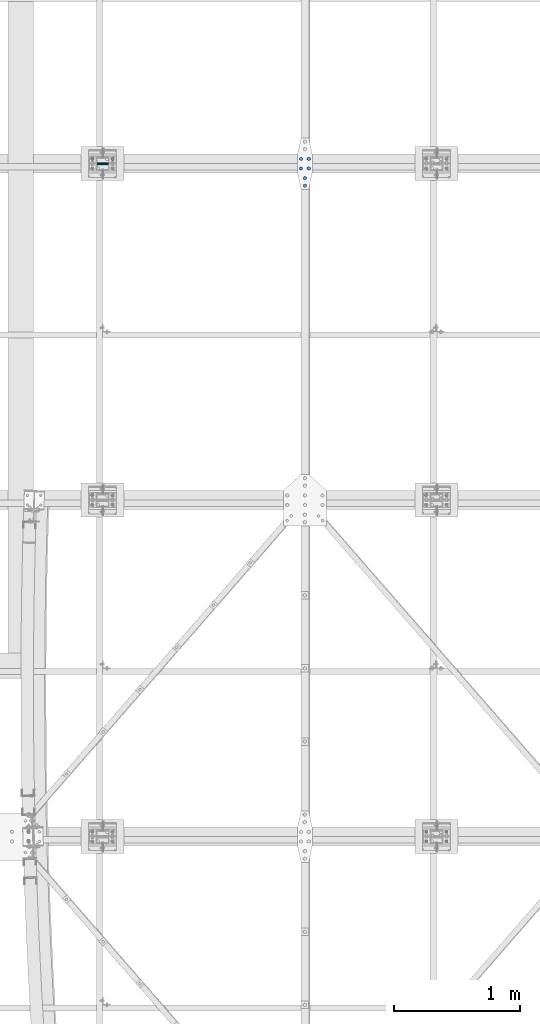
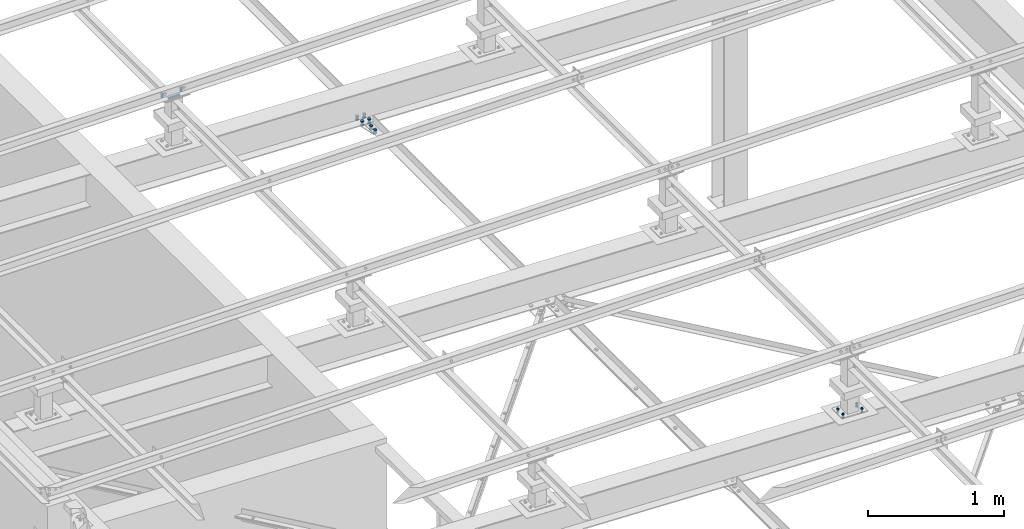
# One storey, part 172 of 3134: 5 mechanical fasteners, 5 elements without a shape of their own.
"""IFC2X3 building model written with IfcOpenShell, lengths in millimetres."""

from ifc_helpers import new_model, si_unit, frame, origin_with_axes, place, context, subcontext, project, spatial, faceted_brep, source, transform, mapped, material, type_object, element, aggregate, save


model = new_model("IFC2X3")

# Units and contexts
model_context = context("Model", 3, precision=1e-05, world=origin_with_axes())
body_context = subcontext(model_context, "Body", "Model", "MODEL_VIEW")
ifc_project = project(units=[si_unit("LENGTHUNIT", "METRE", prefix="MILLI"), si_unit("AREAUNIT", "SQUARE_METRE"), si_unit("VOLUMEUNIT", "CUBIC_METRE"), si_unit("MASSUNIT", "GRAM", prefix="KILO"), si_unit("TIMEUNIT", "SECOND"), si_unit("PLANEANGLEUNIT", "RADIAN"), si_unit("SOLIDANGLEUNIT", "STERADIAN"), si_unit("THERMODYNAMICTEMPERATUREUNIT", "DEGREE_CELSIUS"), si_unit("LUMINOUSINTENSITYUNIT", "LUMEN")], contexts=[model_context])

# Site, building, storey
site_placement = place(None, origin_with_axes())
site = spatial("IfcSite", under=ifc_project, at=site_placement, CompositionType="ELEMENT")
building_placement = place(site_placement, origin_with_axes())
building = spatial("IfcBuilding", under=site, at=building_placement, Name="Undefined", CompositionType="ELEMENT")
storey_placement = place(building_placement, origin_with_axes())
storey = spatial("IfcBuildingStorey", under=building, at=storey_placement, Name="Undefined", CompositionType="ELEMENT", Elevation=0.0)

# Assembly, mechanical fastener
assembly_1_placement = place(storey_placement, origin_with_axes())
assembly_1 = element("IfcElementAssembly", 1, at=assembly_1_placement, inside=storey, AssemblyPlace="NOTDEFINED", PredefinedType="RIGID_FRAME")
ifc_material = material(Name="8.8")
mechanical_fastener_type = type_object("IfcMechanicalFastenerType", Name="Bolt assembly")
shared_shape_1 = source(origin_with_axes(), body_context, "Body", "Brep", [
    faceted_brep([(10.9696551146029, -14.0, 0.0), (5.48482755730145, -14.0, 9.5), (-5.48482755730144, -14.0, 9.5), (-10.9696551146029, -14.0, 1.34339530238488e-15), (-5.48482755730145, -14.0, -9.5), (5.48482755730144, -14.0, -9.50000000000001), (5.48482755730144, -6.0, -9.50000000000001), (-5.48482755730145, -6.0, -9.5), (-10.9696551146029, -6.0, 1.34339530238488e-15), (-5.48482755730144, -6.0, 9.5), (5.48482755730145, -6.0, 9.5), (10.9696551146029, -6.0, 0.0), (6.0, -6.0, 0.0), (5.19615242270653, -6.0, 3.00000000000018), (2.99999999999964, -6.0, 5.19615242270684), (-6.21801588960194e-13, -6.0, 6.0), (-3.00000000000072, -6.0, 5.19615242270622), (-5.19615242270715, -6.0, 2.9999999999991), (-6.0, -6.0, -1.24360317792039e-12), (-5.19615242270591, -6.0, -3.00000000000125), (-2.99999999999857, -6.0, -5.19615242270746), (1.85874342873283e-12, -6.0, -6.0), (3.00000000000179, -6.0, -5.1961524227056), (5.19615242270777, -6.0, -2.99999999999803), (5.19615242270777, 24.0, -2.99999999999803), (3.00000000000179, 24.0, -5.1961524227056), (1.85874342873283e-12, 24.0, -6.0), (-2.99999999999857, 24.0, -5.19615242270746), (-5.19615242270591, 24.0, -3.00000000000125), (-6.0, 24.0, -1.24360317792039e-12), (-5.19615242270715, 24.0, 2.9999999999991), (-3.00000000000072, 24.0, 5.19615242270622), (-6.21801588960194e-13, 24.0, 6.0), (2.99999999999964, 24.0, 5.19615242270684), (5.19615242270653, 24.0, 3.00000000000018), (6.0, 24.0, 0.0), (10.9696551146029, 6.00000000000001, 0.0), (5.48482755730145, 6.00000000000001, 9.5), (-5.48482755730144, 6.00000000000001, 9.5), (-10.9696551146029, 6.00000000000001, 1.34339530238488e-15), (-5.48482755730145, 6.00000000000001, -9.5), (5.48482755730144, 6.00000000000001, -9.50000000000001), (5.48482755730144, 16.0, -9.50000000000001), (-5.48482755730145, 16.0, -9.5), (-10.9696551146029, 16.0, 1.34339530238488e-15), (-5.48482755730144, 16.0, 9.5), (5.48482755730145, 16.0, 9.5), (10.9696551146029, 16.0, 0.0)], [[[0, 1, 2, 3, 4, 5]], [[6, 7, 8, 9, 10, 11]], [[0, 11, 10, 1]], [[1, 10, 9, 2]], [[2, 9, 8, 3]], [[3, 8, 7, 4]], [[4, 7, 6, 5]], [[5, 6, 11, 0]], [[12, 13, 14, 15, 16, 17, 18, 19, 20, 21, 22, 23]], [[24, 25, 26, 27, 28, 29, 30, 31, 32, 33, 34, 35]], [[12, 35, 34, 13]], [[13, 34, 33, 14]], [[14, 33, 32, 15]], [[15, 32, 31, 16]], [[16, 31, 30, 17]], [[17, 30, 29, 18]], [[18, 29, 28, 19]], [[19, 28, 27, 20]], [[20, 27, 26, 21]], [[21, 26, 25, 22]], [[22, 25, 24, 23]], [[23, 24, 35, 12]], [[36, 37, 38, 39, 40, 41]], [[42, 43, 44, 45, 46, 47]], [[36, 47, 46, 37]], [[37, 46, 45, 38]], [[38, 45, 44, 39]], [[39, 44, 43, 40]], [[40, 43, 42, 41]], [[41, 42, 47, 36]]]),
    faceted_brep([(7.0, -0.1, 0.0), (6.06217782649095, -0.1, 3.50000000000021), (3.49999999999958, -0.1, 6.06217782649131), (-7.25435187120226e-13, -0.1, 7.0), (-3.50000000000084, -0.1, 6.06217782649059), (-6.06217782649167, -0.1, 3.49999999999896), (-7.0, -0.1, -1.45087037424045e-12), (-6.06217782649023, -0.1, -3.50000000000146), (-3.49999999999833, -0.1, -6.06217782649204), (2.1685340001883e-12, -0.1, -7.0), (3.50000000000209, -0.1, -6.06217782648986), (6.0621778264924, -0.1, -3.4999999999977), (6.0621778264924, 6.00000000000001, -3.4999999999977), (3.50000000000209, 6.00000000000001, -6.06217782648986), (2.1685340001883e-12, 6.00000000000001, -7.0), (-3.49999999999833, 6.00000000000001, -6.06217782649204), (-6.06217782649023, 6.00000000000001, -3.50000000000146), (-7.0, 6.00000000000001, -1.45087037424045e-12), (-6.06217782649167, 6.00000000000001, 3.49999999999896), (-3.50000000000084, 6.00000000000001, 6.06217782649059), (-7.25435187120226e-13, 6.00000000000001, 7.0), (3.49999999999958, 6.00000000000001, 6.06217782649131), (6.06217782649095, 6.00000000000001, 3.50000000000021), (7.0, 6.00000000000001, 0.0), (7.0, -5.9, 0.0), (6.06217782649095, -5.9, 3.50000000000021), (3.49999999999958, -5.9, 6.06217782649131), (-7.25435187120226e-13, -5.9, 7.0), (-3.50000000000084, -5.9, 6.06217782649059), (-6.06217782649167, -5.9, 3.49999999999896), (-7.0, -5.9, -1.45087037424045e-12), (-6.06217782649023, -5.9, -3.50000000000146), (-3.49999999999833, -5.9, -6.06217782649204), (2.1685340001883e-12, -5.9, -7.0), (3.50000000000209, -5.9, -6.06217782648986), (6.0621778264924, -5.9, -3.4999999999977), (6.0621778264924, 0.0999999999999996, -3.4999999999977), (3.50000000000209, 0.0999999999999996, -6.06217782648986), (2.1685340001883e-12, 0.0999999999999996, -7.0), (-3.49999999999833, 0.0999999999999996, -6.06217782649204), (-6.06217782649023, 0.0999999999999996, -3.50000000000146), (-7.0, 0.0999999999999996, -1.45087037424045e-12), (-6.06217782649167, 0.0999999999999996, 3.49999999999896), (-3.50000000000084, 0.0999999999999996, 6.06217782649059), (-7.25435187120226e-13, 0.0999999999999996, 7.0), (3.49999999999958, 0.0999999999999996, 6.06217782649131), (6.06217782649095, 0.0999999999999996, 3.50000000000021), (7.0, 0.0999999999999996, 0.0)], [[[0, 1, 2, 3, 4, 5, 6, 7, 8, 9, 10, 11]], [[12, 13, 14, 15, 16, 17, 18, 19, 20, 21, 22, 23]], [[0, 23, 22, 1]], [[1, 22, 21, 2]], [[2, 21, 20, 3]], [[3, 20, 19, 4]], [[4, 19, 18, 5]], [[5, 18, 17, 6]], [[6, 17, 16, 7]], [[7, 16, 15, 8]], [[8, 15, 14, 9]], [[9, 14, 13, 10]], [[10, 13, 12, 11]], [[11, 12, 23, 0]], [[24, 25, 26, 27, 28, 29, 30, 31, 32, 33, 34, 35]], [[36, 37, 38, 39, 40, 41, 42, 43, 44, 45, 46, 47]], [[24, 47, 46, 25]], [[25, 46, 45, 26]], [[26, 45, 44, 27]], [[27, 44, 43, 28]], [[28, 43, 42, 29]], [[29, 42, 41, 30]], [[30, 41, 40, 31]], [[31, 40, 39, 32]], [[32, 39, 38, 33]], [[33, 38, 37, 34]], [[34, 37, 36, 35]], [[35, 36, 47, 24]]]),
])
mechanical_fastener_1_placement = place(assembly_1_placement, frame((3043.33, 37616.25, 4365.0), z_axis=(1.0, 0.0, 0.0), x_axis=(0.0, -1.0, 0.0)))
mechanical_fastener_1 = element("IfcMechanicalFastener", 2, at=mechanical_fastener_1_placement, type_object=mechanical_fastener_type, material=ifc_material, Name="Bolt assembly", NominalDiameter=12.0, NominalLength=30.0, context=body_context, shape_type="MappedRepresentation", body=[
    mapped(shared_shape_1, transform((0.0, -5.32963895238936e-10, -79.9999999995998))),
    mapped(shared_shape_1, transform((0.0, 5.3114490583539e-10, 79.9999999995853))),
])
aggregate(assembly_1, [mechanical_fastener_1])

assembly_2_placement = place(storey_placement, origin_with_axes())
assembly_2 = element("IfcElementAssembly", 3, at=assembly_2_placement, inside=storey, AssemblyPlace="NOTDEFINED", PredefinedType="RIGID_FRAME")
shared_shape_2 = source(origin_with_axes(), body_context, "Body", "Brep", [
    faceted_brep([(13.856406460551, -21.0000017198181, 0.0), (6.92820323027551, -21.0000017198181, 12.0), (-6.92820323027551, -21.0000017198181, 12.0), (-13.856406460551, -21.0000017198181, 1.69692038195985e-15), (-6.92820323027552, -21.0000017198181, -12.0), (6.9282032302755, -21.0000017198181, -12.0), (6.9282032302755, -11.0000017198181, -12.0), (-6.92820323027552, -11.0000017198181, -12.0), (-13.856406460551, -11.0000017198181, 1.69692038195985e-15), (-6.92820323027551, -11.0000017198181, 12.0), (6.92820323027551, -11.0000017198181, 12.0), (13.856406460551, -11.0000017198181, 0.0), (8.0, -11.0000017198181, 0.0), (6.92820323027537, -11.0000017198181, 4.00000000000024), (3.99999999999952, -11.0000017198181, 6.92820323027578), (-8.29068785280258e-13, -11.0000017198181, 8.0), (-4.00000000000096, -11.0000017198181, 6.92820323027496), (-6.9282032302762, -11.0000017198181, 3.99999999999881), (-8.0, -11.0000017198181, -1.65813757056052e-12), (-6.92820323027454, -11.0000017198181, -4.00000000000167), (-3.99999999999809, -11.0000017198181, -6.92820323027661), (2.47832457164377e-12, -11.0000017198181, -8.0), (4.00000000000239, -11.0000017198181, -6.92820323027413), (6.92820323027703, -11.0000017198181, -3.99999999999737), (6.92820323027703, 23.9999999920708, -3.99999999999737), (4.00000000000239, 23.9999999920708, -6.92820323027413), (2.47832457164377e-12, 23.9999999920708, -8.0), (-3.99999999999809, 23.9999999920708, -6.92820323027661), (-6.92820323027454, 23.9999999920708, -4.00000000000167), (-8.0, 23.9999999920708, -1.65813757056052e-12), (-6.9282032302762, 23.9999999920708, 3.99999999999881), (-4.00000000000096, 23.9999999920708, 6.92820323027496), (-8.29068785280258e-13, 23.9999999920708, 8.0), (3.99999999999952, 23.9999999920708, 6.92820323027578), (6.92820323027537, 23.9999999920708, 4.00000000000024), (8.0, 23.9999999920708, 0.0), (13.856406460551, 3.99999999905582, 0.0), (6.92820323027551, 3.99999999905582, 12.0), (-6.92820323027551, 3.99999999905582, 12.0), (-13.856406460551, 3.99999999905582, 1.69692038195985e-15), (-6.92820323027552, 3.99999999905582, -12.0), (6.9282032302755, 3.99999999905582, -12.0), (6.9282032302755, 16.9999999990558, -12.0), (-6.92820323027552, 16.9999999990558, -12.0), (-13.856406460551, 16.9999999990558, 1.69692038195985e-15), (-6.92820323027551, 16.9999999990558, 12.0), (6.92820323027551, 16.9999999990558, 12.0), (13.856406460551, 16.9999999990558, 0.0)], [[[0, 1, 2, 3, 4, 5]], [[6, 7, 8, 9, 10, 11]], [[0, 11, 10, 1]], [[1, 10, 9, 2]], [[2, 9, 8, 3]], [[3, 8, 7, 4]], [[4, 7, 6, 5]], [[5, 6, 11, 0]], [[12, 13, 14, 15, 16, 17, 18, 19, 20, 21, 22, 23]], [[24, 25, 26, 27, 28, 29, 30, 31, 32, 33, 34, 35]], [[12, 35, 34, 13]], [[13, 34, 33, 14]], [[14, 33, 32, 15]], [[15, 32, 31, 16]], [[16, 31, 30, 17]], [[17, 30, 29, 18]], [[18, 29, 28, 19]], [[19, 28, 27, 20]], [[20, 27, 26, 21]], [[21, 26, 25, 22]], [[22, 25, 24, 23]], [[23, 24, 35, 12]], [[36, 37, 38, 39, 40, 41]], [[42, 43, 44, 45, 46, 47]], [[36, 47, 46, 37]], [[37, 46, 45, 38]], [[38, 45, 44, 39]], [[39, 44, 43, 40]], [[40, 43, 42, 41]], [[41, 42, 47, 36]]]),
    faceted_brep([(9.0, -4.10000000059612, 0.0), (7.79422863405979, -4.10000000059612, 4.50000000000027), (4.49999999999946, -4.10000000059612, 7.79422863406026), (-9.3270238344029e-13, -4.10000000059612, 9.0), (-4.50000000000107, -4.10000000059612, 7.79422863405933), (-7.79422863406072, -4.10000000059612, 4.49999999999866), (-9.0, -4.10000000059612, -1.86540476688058e-12), (-7.79422863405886, -4.10000000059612, -4.50000000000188), (-4.49999999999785, -4.10000000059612, -7.79422863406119), (2.78811514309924e-12, -4.10000000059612, -9.0), (4.50000000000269, -4.10000000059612, -7.7942286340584), (7.79422863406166, -4.10000000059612, -4.49999999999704), (7.79422863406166, 4.00000375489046, -4.49999999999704), (4.50000000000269, 4.00000375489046, -7.7942286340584), (2.78811514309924e-12, 4.00000375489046, -9.0), (-4.49999999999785, 4.00000375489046, -7.79422863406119), (-7.79422863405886, 4.00000375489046, -4.50000000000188), (-9.0, 4.00000375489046, -1.86540476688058e-12), (-7.79422863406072, 4.00000375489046, 4.49999999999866), (-4.50000000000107, 4.00000375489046, 7.79422863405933), (-9.3270238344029e-13, 4.00000375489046, 9.0), (4.49999999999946, 4.00000375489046, 7.79422863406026), (7.79422863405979, 4.00000375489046, 4.50000000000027), (9.0, 4.00000375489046, 0.0), (9.0, -10.9000017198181, 0.0), (7.79422863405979, -10.9000017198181, 4.50000000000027), (4.49999999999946, -10.9000017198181, 7.79422863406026), (-9.3270238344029e-13, -10.9000017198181, 9.0), (-4.50000000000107, -10.9000017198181, 7.79422863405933), (-7.79422863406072, -10.9000017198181, 4.49999999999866), (-9.0, -10.9000017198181, -1.86540476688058e-12), (-7.79422863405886, -10.9000017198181, -4.50000000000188), (-4.49999999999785, -10.9000017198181, -7.79422863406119), (2.78811514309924e-12, -10.9000017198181, -9.0), (4.50000000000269, -10.9000017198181, -7.7942286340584), (7.79422863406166, -10.9000017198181, -4.49999999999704), (7.79422863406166, -3.9, -4.49999999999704), (4.50000000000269, -3.9, -7.7942286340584), (2.78811514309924e-12, -3.9, -9.0), (-4.49999999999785, -3.9, -7.79422863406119), (-7.79422863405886, -3.9, -4.50000000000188), (-9.0, -3.9, -1.86540476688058e-12), (-7.79422863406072, -3.9, 4.49999999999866), (-4.50000000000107, -3.9, 7.79422863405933), (-9.3270238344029e-13, -3.9, 9.0), (4.49999999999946, -3.9, 7.79422863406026), (7.79422863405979, -3.9, 4.50000000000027), (9.0, -3.9, 0.0)], [[[0, 1, 2, 3, 4, 5, 6, 7, 8, 9, 10, 11]], [[12, 13, 14, 15, 16, 17, 18, 19, 20, 21, 22, 23]], [[0, 23, 22, 1]], [[1, 22, 21, 2]], [[2, 21, 20, 3]], [[3, 20, 19, 4]], [[4, 19, 18, 5]], [[5, 18, 17, 6]], [[6, 17, 16, 7]], [[7, 16, 15, 8]], [[8, 15, 14, 9]], [[9, 14, 13, 10]], [[10, 13, 12, 11]], [[11, 12, 23, 0]], [[24, 25, 26, 27, 28, 29, 30, 31, 32, 33, 34, 35]], [[36, 37, 38, 39, 40, 41, 42, 43, 44, 45, 46, 47]], [[24, 47, 46, 25]], [[25, 46, 45, 26]], [[26, 45, 44, 27]], [[27, 44, 43, 28]], [[28, 43, 42, 29]], [[29, 42, 41, 30]], [[30, 41, 40, 31]], [[31, 40, 39, 32]], [[32, 39, 38, 33]], [[33, 38, 37, 34]], [[34, 37, 36, 35]], [[35, 36, 47, 24]]]),
])
mechanical_fastener_2_placement = place(assembly_2_placement, frame((4647.50483526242, 37406.25, 3576.15051900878), z_axis=(-0.999388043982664, 0.0, 0.0349791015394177), x_axis=(0.0, 1.0, 0.0)))
mechanical_fastener_2 = element("IfcMechanicalFastener", 4, at=mechanical_fastener_2_placement, type_object=mechanical_fastener_type, material=ifc_material, Name="Bolt assembly", NominalDiameter=16.0, NominalLength=35.0, context=body_context, shape_type="MappedRepresentation", body=[
    mapped(shared_shape_2, transform((0.0, 0.0, 0.0))),
    mapped(shared_shape_2, transform((59.9999999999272, 0.0, 5.40239852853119e-10))),
])
aggregate(assembly_2, [mechanical_fastener_2])

assembly_3_placement = place(storey_placement, origin_with_axes())
assembly_3 = element("IfcElementAssembly", 5, at=assembly_3_placement, inside=storey, Name="PL8", AssemblyPlace="NOTDEFINED", PredefinedType="RIGID_FRAME")
shared_shape_3 = source(origin_with_axes(), body_context, "Body", "Brep", [
    faceted_brep([(13.856406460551, -23.2000817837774, 0.0), (6.92820323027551, -23.2000817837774, 12.0), (-6.92820323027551, -23.2000817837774, 12.0), (-13.856406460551, -23.2000817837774, 1.69692038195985e-15), (-6.92820323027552, -23.2000817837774, -12.0), (6.9282032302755, -23.2000817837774, -12.0), (6.9282032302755, -13.2000817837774, -12.0), (-6.92820323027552, -13.2000817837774, -12.0), (-13.856406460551, -13.2000817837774, 1.69692038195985e-15), (-6.92820323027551, -13.2000817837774, 12.0), (6.92820323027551, -13.2000817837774, 12.0), (13.856406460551, -13.2000817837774, 0.0), (8.0, -13.2000817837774, 0.0), (6.92820323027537, -13.2000817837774, 4.00000000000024), (3.99999999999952, -13.2000817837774, 6.92820323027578), (-8.29068785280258e-13, -13.2000817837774, 8.0), (-4.00000000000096, -13.2000817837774, 6.92820323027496), (-6.9282032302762, -13.2000817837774, 3.99999999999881), (-8.0, -13.2000817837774, -1.65813757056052e-12), (-6.92820323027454, -13.2000817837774, -4.00000000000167), (-3.99999999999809, -13.2000817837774, -6.92820323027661), (2.47832457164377e-12, -13.2000817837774, -8.0), (4.00000000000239, -13.2000817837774, -6.92820323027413), (6.92820323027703, -13.2000817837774, -3.99999999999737), (6.92820323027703, 21.7999182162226, -3.99999999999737), (4.00000000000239, 21.7999182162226, -6.92820323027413), (2.47832457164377e-12, 21.7999182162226, -8.0), (-3.99999999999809, 21.7999182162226, -6.92820323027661), (-6.92820323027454, 21.7999182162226, -4.00000000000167), (-8.0, 21.7999182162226, -1.65813757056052e-12), (-6.9282032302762, 21.7999182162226, 3.99999999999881), (-4.00000000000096, 21.7999182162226, 6.92820323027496), (-8.29068785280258e-13, 21.7999182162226, 8.0), (3.99999999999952, 21.7999182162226, 6.92820323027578), (6.92820323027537, 21.7999182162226, 4.00000000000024), (8.0, 21.7999182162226, 0.0), (13.856406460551, 3.99999999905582, 0.0), (6.92820323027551, 3.99999999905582, 12.0), (-6.92820323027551, 3.99999999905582, 12.0), (-13.856406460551, 3.99999999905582, 1.69692038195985e-15), (-6.92820323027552, 3.99999999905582, -12.0), (6.9282032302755, 3.99999999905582, -12.0), (6.9282032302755, 16.9999999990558, -12.0), (-6.92820323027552, 16.9999999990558, -12.0), (-13.856406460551, 16.9999999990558, 1.69692038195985e-15), (-6.92820323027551, 16.9999999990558, 12.0), (6.92820323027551, 16.9999999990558, 12.0), (13.856406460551, 16.9999999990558, 0.0)], [[[0, 1, 2, 3, 4, 5]], [[6, 7, 8, 9, 10, 11]], [[0, 11, 10, 1]], [[1, 10, 9, 2]], [[2, 9, 8, 3]], [[3, 8, 7, 4]], [[4, 7, 6, 5]], [[5, 6, 11, 0]], [[12, 13, 14, 15, 16, 17, 18, 19, 20, 21, 22, 23]], [[24, 25, 26, 27, 28, 29, 30, 31, 32, 33, 34, 35]], [[12, 35, 34, 13]], [[13, 34, 33, 14]], [[14, 33, 32, 15]], [[15, 32, 31, 16]], [[16, 31, 30, 17]], [[17, 30, 29, 18]], [[18, 29, 28, 19]], [[19, 28, 27, 20]], [[20, 27, 26, 21]], [[21, 26, 25, 22]], [[22, 25, 24, 23]], [[23, 24, 35, 12]], [[36, 37, 38, 39, 40, 41]], [[42, 43, 44, 45, 46, 47]], [[36, 47, 46, 37]], [[37, 46, 45, 38]], [[38, 45, 44, 39]], [[39, 44, 43, 40]], [[40, 43, 42, 41]], [[41, 42, 47, 36]]]),
    faceted_brep([(9.0, -13.1000817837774, 0.0), (7.79422863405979, -13.1000817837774, 4.50000000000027), (4.49999999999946, -13.1000817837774, 7.79422863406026), (-9.3270238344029e-13, -13.1000817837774, 9.0), (-4.50000000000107, -13.1000817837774, 7.79422863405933), (-7.79422863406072, -13.1000817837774, 4.49999999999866), (-9.0, -13.1000817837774, -1.86540476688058e-12), (-7.79422863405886, -13.1000817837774, -4.50000000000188), (-4.49999999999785, -13.1000817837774, -7.79422863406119), (2.78811514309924e-12, -13.1000817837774, -9.0), (4.50000000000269, -13.1000817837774, -7.7942286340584), (7.79422863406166, -13.1000817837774, -4.49999999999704), (7.79422863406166, -3.90008197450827, -4.49999999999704), (4.50000000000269, -3.90008197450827, -7.7942286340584), (2.78811514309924e-12, -3.90008197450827, -9.0), (-4.49999999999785, -3.90008197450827, -7.79422863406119), (-7.79422863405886, -3.90008197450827, -4.50000000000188), (-9.0, -3.90008197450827, -1.86540476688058e-12), (-7.79422863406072, -3.90008197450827, 4.49999999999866), (-4.50000000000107, -3.90008197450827, 7.79422863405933), (-9.3270238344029e-13, -3.90008197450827, 9.0), (4.49999999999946, -3.90008197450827, 7.79422863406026), (7.79422863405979, -3.90008197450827, 4.50000000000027), (9.0, -3.90008197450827, 0.0), (9.0, -4.10000000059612, 0.0), (7.79422863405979, -4.10000000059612, 4.50000000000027), (4.49999999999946, -4.10000000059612, 7.79422863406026), (-9.3270238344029e-13, -4.10000000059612, 9.0), (-4.50000000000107, -4.10000000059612, 7.79422863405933), (-7.79422863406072, -4.10000000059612, 4.49999999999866), (-9.0, -4.10000000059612, -1.86540476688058e-12), (-7.79422863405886, -4.10000000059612, -4.50000000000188), (-4.49999999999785, -4.10000000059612, -7.79422863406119), (2.78811514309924e-12, -4.10000000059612, -9.0), (4.50000000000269, -4.10000000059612, -7.7942286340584), (7.79422863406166, -4.10000000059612, -4.49999999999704), (7.79422863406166, 4.00000375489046, -4.49999999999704), (4.50000000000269, 4.00000375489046, -7.7942286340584), (2.78811514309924e-12, 4.00000375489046, -9.0), (-4.49999999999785, 4.00000375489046, -7.79422863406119), (-7.79422863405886, 4.00000375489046, -4.50000000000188), (-9.0, 4.00000375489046, -1.86540476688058e-12), (-7.79422863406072, 4.00000375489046, 4.49999999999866), (-4.50000000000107, 4.00000375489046, 7.79422863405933), (-9.3270238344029e-13, 4.00000375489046, 9.0), (4.49999999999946, 4.00000375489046, 7.79422863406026), (7.79422863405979, 4.00000375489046, 4.50000000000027), (9.0, 4.00000375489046, 0.0)], [[[0, 1, 2, 3, 4, 5, 6, 7, 8, 9, 10, 11]], [[12, 13, 14, 15, 16, 17, 18, 19, 20, 21, 22, 23]], [[0, 23, 22, 1]], [[1, 22, 21, 2]], [[2, 21, 20, 3]], [[3, 20, 19, 4]], [[4, 19, 18, 5]], [[5, 18, 17, 6]], [[6, 17, 16, 7]], [[7, 16, 15, 8]], [[8, 15, 14, 9]], [[9, 14, 13, 10]], [[10, 13, 12, 11]], [[11, 12, 23, 0]], [[24, 25, 26, 27, 28, 29, 30, 31, 32, 33, 34, 35]], [[36, 37, 38, 39, 40, 41, 42, 43, 44, 45, 46, 47]], [[24, 47, 46, 25]], [[25, 46, 45, 26]], [[26, 45, 44, 27]], [[27, 44, 43, 28]], [[28, 43, 42, 29]], [[29, 42, 41, 30]], [[30, 41, 40, 31]], [[31, 40, 39, 32]], [[32, 39, 38, 33]], [[33, 38, 37, 34]], [[34, 37, 36, 35]], [[35, 36, 47, 24]]]),
])
mechanical_fastener_3_placement = place(assembly_3_placement, frame((4647.50483519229, 37543.25, 3576.15051900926), z_axis=(-0.999388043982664, 0.0, 0.0349791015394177), x_axis=(0.0, 1.0, 0.0)))
mechanical_fastener_3 = element("IfcMechanicalFastener", 6, at=mechanical_fastener_3_placement, type_object=mechanical_fastener_type, material=ifc_material, Name="Bolt assembly", NominalDiameter=16.0, NominalLength=35.0, context=body_context, shape_type="MappedRepresentation", body=[
    mapped(shared_shape_3, transform((0.0, 4.54747350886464e-13, -30.0000000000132))),
    mapped(shared_shape_3, transform((76.0, -2.00088834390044e-10, -29.9999999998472))),
    mapped(shared_shape_3, transform((0.0, 4.54747350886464e-13, 30.0000000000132))),
    mapped(shared_shape_3, transform((76.0, 1.98269844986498e-10, 29.9999999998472))),
])
aggregate(assembly_3, [mechanical_fastener_3])

assembly_4_placement = place(storey_placement, origin_with_axes())
assembly_4 = element("IfcElementAssembly", 7, at=assembly_4_placement, inside=storey, AssemblyPlace="NOTDEFINED", PredefinedType="RIGID_FRAME")
shared_shape_4 = source(origin_with_axes(), body_context, "Body", "Brep", [
    faceted_brep([(10.9696551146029, -4.18280906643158, 0.0), (5.48482755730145, -4.18280906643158, 9.5), (-5.48482755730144, -4.18280906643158, 9.5), (-10.9696551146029, -4.18280906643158, 1.34339530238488e-15), (-5.48482755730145, -4.18280906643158, -9.5), (5.48482755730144, -4.18280906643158, -9.50000000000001), (5.48482755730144, 3.81719093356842, -9.50000000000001), (-5.48482755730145, 3.81719093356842, -9.5), (-10.9696551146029, 3.81719093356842, 1.34339530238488e-15), (-5.48482755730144, 3.81719093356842, 9.5), (5.48482755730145, 3.81719093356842, 9.5), (10.9696551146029, 3.81719093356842, 0.0), (6.0, 3.81719093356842, 0.0), (5.19615242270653, 3.81719093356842, 3.00000000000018), (2.99999999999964, 3.81719093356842, 5.19615242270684), (-6.21801588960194e-13, 3.81719093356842, 6.0), (-3.00000000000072, 3.81719093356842, 5.19615242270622), (-5.19615242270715, 3.81719093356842, 2.9999999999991), (-6.0, 3.81719093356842, -1.24360317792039e-12), (-5.19615242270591, 3.81719093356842, -3.00000000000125), (-2.99999999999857, 3.81719093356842, -5.19615242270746), (1.85874342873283e-12, 3.81719093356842, -6.0), (3.00000000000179, 3.81719093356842, -5.1961524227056), (5.19615242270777, 3.81719093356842, -2.99999999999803), (5.19615242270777, 38.8171909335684, -2.99999999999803), (3.00000000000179, 38.8171909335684, -5.1961524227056), (1.85874342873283e-12, 38.8171909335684, -6.0), (-2.99999999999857, 38.8171909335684, -5.19615242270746), (-5.19615242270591, 38.8171909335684, -3.00000000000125), (-6.0, 38.8171909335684, -1.24360317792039e-12), (-5.19615242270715, 38.8171909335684, 2.9999999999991), (-3.00000000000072, 38.8171909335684, 5.19615242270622), (-6.21801588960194e-13, 38.8171909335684, 6.0), (2.99999999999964, 38.8171909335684, 5.19615242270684), (5.19615242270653, 38.8171909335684, 3.00000000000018), (6.0, 38.8171909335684, 0.0), (10.9696551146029, 23.0139082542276, 0.0), (5.48482755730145, 23.0139082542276, 9.5), (-5.48482755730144, 23.0139082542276, 9.5), (-10.9696551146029, 23.0139082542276, 1.34339530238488e-15), (-5.48482755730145, 23.0139082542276, -9.5), (5.48482755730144, 23.0139082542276, -9.50000000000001), (5.48482755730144, 33.0139082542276, -9.50000000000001), (-5.48482755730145, 33.0139082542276, -9.5), (-10.9696551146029, 33.0139082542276, 1.34339530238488e-15), (-5.48482755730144, 33.0139082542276, 9.5), (5.48482755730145, 33.0139082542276, 9.5), (10.9696551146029, 33.0139082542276, 0.0)], [[[0, 1, 2, 3, 4, 5]], [[6, 7, 8, 9, 10, 11]], [[0, 11, 10, 1]], [[1, 10, 9, 2]], [[2, 9, 8, 3]], [[3, 8, 7, 4]], [[4, 7, 6, 5]], [[5, 6, 11, 0]], [[12, 13, 14, 15, 16, 17, 18, 19, 20, 21, 22, 23]], [[24, 25, 26, 27, 28, 29, 30, 31, 32, 33, 34, 35]], [[12, 35, 34, 13]], [[13, 34, 33, 14]], [[14, 33, 32, 15]], [[15, 32, 31, 16]], [[16, 31, 30, 17]], [[17, 30, 29, 18]], [[18, 29, 28, 19]], [[19, 28, 27, 20]], [[20, 27, 26, 21]], [[21, 26, 25, 22]], [[22, 25, 24, 23]], [[23, 24, 35, 12]], [[36, 37, 38, 39, 40, 41]], [[42, 43, 44, 45, 46, 47]], [[36, 47, 46, 37]], [[37, 46, 45, 38]], [[38, 45, 44, 39]], [[39, 44, 43, 40]], [[40, 43, 42, 41]], [[41, 42, 47, 36]]]),
    faceted_brep([(7.0, 3.91719093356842, 0.0), (6.06217782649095, 3.91719093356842, 3.50000000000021), (3.49999999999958, 3.91719093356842, 6.06217782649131), (-7.25435187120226e-13, 3.91719093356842, 7.0), (-3.50000000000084, 3.91719093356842, 6.06217782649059), (-6.06217782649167, 3.91719093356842, 3.49999999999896), (-7.0, 3.91719093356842, -1.45087037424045e-12), (-6.06217782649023, 3.91719093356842, -3.50000000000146), (-3.49999999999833, 3.91719093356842, -6.06217782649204), (2.1685340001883e-12, 3.91719093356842, -7.0), (3.50000000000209, 3.91719093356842, -6.06217782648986), (6.0621778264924, 3.91719093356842, -3.4999999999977), (6.0621778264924, 13.1171907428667, -3.4999999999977), (3.50000000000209, 13.1171907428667, -6.06217782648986), (2.1685340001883e-12, 13.1171907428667, -7.0), (-3.49999999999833, 13.1171907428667, -6.06217782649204), (-6.06217782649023, 13.1171907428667, -3.50000000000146), (-7.0, 13.1171907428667, -1.45087037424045e-12), (-6.06217782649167, 13.1171907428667, 3.49999999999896), (-3.50000000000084, 13.1171907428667, 6.06217782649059), (-7.25435187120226e-13, 13.1171907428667, 7.0), (3.49999999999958, 13.1171907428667, 6.06217782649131), (6.06217782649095, 13.1171907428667, 3.50000000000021), (7.0, 13.1171907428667, 0.0), (7.0, 14.9139082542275, 0.0), (6.06217782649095, 14.9139082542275, 3.50000000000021), (3.49999999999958, 14.9139082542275, 6.06217782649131), (-7.25435187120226e-13, 14.9139082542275, 7.0), (-3.50000000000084, 14.9139082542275, 6.06217782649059), (-6.06217782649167, 14.9139082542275, 3.49999999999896), (-7.0, 14.9139082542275, -1.45087037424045e-12), (-6.06217782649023, 14.9139082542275, -3.50000000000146), (-3.49999999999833, 14.9139082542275, -6.06217782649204), (2.1685340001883e-12, 14.9139082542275, -7.0), (3.50000000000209, 14.9139082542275, -6.06217782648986), (6.0621778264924, 14.9139082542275, -3.4999999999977), (6.0621778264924, 23.0139082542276, -3.4999999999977), (3.50000000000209, 23.0139082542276, -6.06217782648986), (2.1685340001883e-12, 23.0139082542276, -7.0), (-3.49999999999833, 23.0139082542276, -6.06217782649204), (-6.06217782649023, 23.0139082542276, -3.50000000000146), (-7.0, 23.0139082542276, -1.45087037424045e-12), (-6.06217782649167, 23.0139082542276, 3.49999999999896), (-3.50000000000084, 23.0139082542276, 6.06217782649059), (-7.25435187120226e-13, 23.0139082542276, 7.0), (3.49999999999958, 23.0139082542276, 6.06217782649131), (6.06217782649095, 23.0139082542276, 3.50000000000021), (7.0, 23.0139082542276, 0.0)], [[[0, 1, 2, 3, 4, 5, 6, 7, 8, 9, 10, 11]], [[12, 13, 14, 15, 16, 17, 18, 19, 20, 21, 22, 23]], [[0, 23, 22, 1]], [[1, 22, 21, 2]], [[2, 21, 20, 3]], [[3, 20, 19, 4]], [[4, 19, 18, 5]], [[5, 18, 17, 6]], [[6, 17, 16, 7]], [[7, 16, 15, 8]], [[8, 15, 14, 9]], [[9, 14, 13, 10]], [[10, 13, 12, 11]], [[11, 12, 23, 0]], [[24, 25, 26, 27, 28, 29, 30, 31, 32, 33, 34, 35]], [[36, 37, 38, 39, 40, 41, 42, 43, 44, 45, 46, 47]], [[24, 47, 46, 25]], [[25, 46, 45, 26]], [[26, 45, 44, 27]], [[27, 44, 43, 28]], [[28, 43, 42, 29]], [[29, 42, 41, 30]], [[30, 41, 40, 31]], [[31, 40, 39, 32]], [[32, 39, 38, 33]], [[33, 38, 37, 34]], [[34, 37, 36, 35]], [[35, 36, 47, 24]]]),
])
mechanical_fastener_4_placement = place(assembly_4_placement, frame((5690.86474073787, 32281.7499999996, 3827.79222028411), z_axis=(-0.999387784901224, 0.0, 0.0349865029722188), x_axis=(0.0, -1.0, 0.0)))
mechanical_fastener_4 = element("IfcMechanicalFastener", 8, at=mechanical_fastener_4_placement, type_object=mechanical_fastener_type, material=ifc_material, Name="Bolt assembly", NominalDiameter=12.0, NominalLength=35.0, context=body_context, shape_type="MappedRepresentation", body=[
    mapped(shared_shape_4, transform((0.0, -5.32963895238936e-10, -79.9999999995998))),
    mapped(shared_shape_4, transform((76.0, -5.32963895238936e-10, -79.9999999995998))),
    mapped(shared_shape_4, transform((0.0, 5.3114490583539e-10, 79.9999999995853))),
    mapped(shared_shape_4, transform((76.0, 5.3114490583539e-10, 79.9999999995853))),
])
aggregate(assembly_4, [mechanical_fastener_4])

assembly_5_placement = place(storey_placement, origin_with_axes())
assembly_5 = element("IfcElementAssembly", 9, at=assembly_5_placement, inside=storey, AssemblyPlace="NOTDEFINED", PredefinedType="RIGID_FRAME")
shared_shape_5 = source(origin_with_axes(), body_context, "Body", "Brep", [
    faceted_brep([(9.0, -50.0, 0.0), (7.79422863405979, -50.0, 4.50000000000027), (4.49999999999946, -50.0, 7.79422863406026), (-9.3270238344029e-13, -50.0, 9.0), (-4.50000000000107, -50.0, 7.79422863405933), (-7.79422863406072, -50.0, 4.49999999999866), (-9.0, -50.0, -1.86540476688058e-12), (-7.79422863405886, -50.0, -4.50000000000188), (-4.49999999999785, -50.0, -7.79422863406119), (2.78811514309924e-12, -50.0, -9.0), (4.50000000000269, -50.0, -7.7942286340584), (7.79422863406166, -50.0, -4.49999999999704), (7.79422863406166, 50.1, -4.49999999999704), (4.50000000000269, 50.1, -7.7942286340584), (2.78811514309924e-12, 50.1, -9.0), (-4.49999999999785, 50.1, -7.79422863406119), (-7.79422863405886, 50.1, -4.50000000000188), (-9.0, 50.1, -1.86540476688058e-12), (-7.79422863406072, 50.1, 4.49999999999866), (-4.50000000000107, 50.1, 7.79422863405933), (-9.3270238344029e-13, 50.1, 9.0), (4.49999999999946, 50.1, 7.79422863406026), (7.79422863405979, 50.1, 4.50000000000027), (9.0, 50.1, 0.0)], [[[0, 1, 2, 3, 4, 5, 6, 7, 8, 9, 10, 11]], [[12, 13, 14, 15, 16, 17, 18, 19, 20, 21, 22, 23]], [[0, 23, 22, 1]], [[1, 22, 21, 2]], [[2, 21, 20, 3]], [[3, 20, 19, 4]], [[4, 19, 18, 5]], [[5, 18, 17, 6]], [[6, 17, 16, 7]], [[7, 16, 15, 8]], [[8, 15, 14, 9]], [[9, 14, 13, 10]], [[10, 13, 12, 11]], [[11, 12, 23, 0]]]),
])
mechanical_fastener_5_placement = place(assembly_5_placement, frame((3043.33, 37581.25, 4345.0), z_axis=(0.0, 1.0, 0.0), x_axis=(0.0, 0.0, 1.0)))
mechanical_fastener_5 = element("IfcMechanicalFastener", 10, at=mechanical_fastener_5_placement, type_object=mechanical_fastener_type, material=ifc_material, Name="Bolt assembly", NominalDiameter=16.0, NominalLength=100.0, context=body_context, shape_type="MappedRepresentation", body=[
    mapped(shared_shape_5, transform((0.0, 0.0, 0.0))),
])
aggregate(assembly_5, [mechanical_fastener_5])

save(model, "model.ifc")
